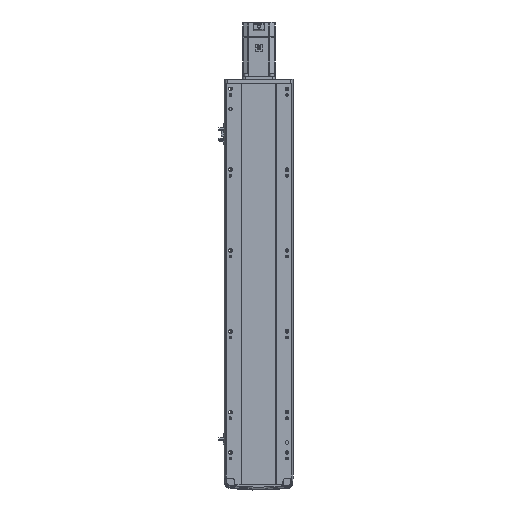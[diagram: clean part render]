
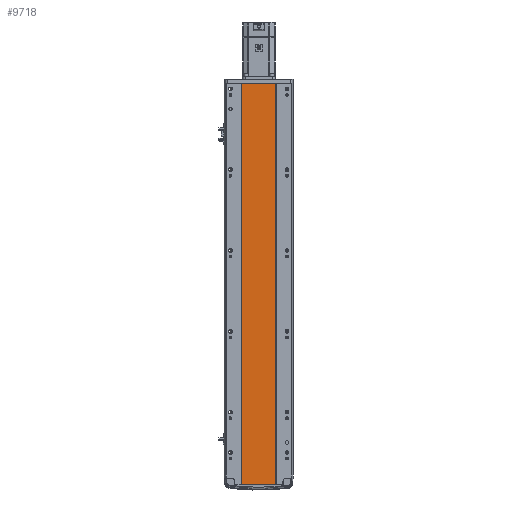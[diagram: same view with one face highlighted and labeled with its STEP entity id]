
A CAD part, front view. The second image highlights one B-rep face of the part: STEP entity #9718.
In plain terms, the highlighted planar face has unit normal (0, -1, 0).
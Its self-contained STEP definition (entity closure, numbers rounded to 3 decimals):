
#73 = ORIENTED_EDGE ( 'NONE', *, *, #48754, .F. ) ;
#151 = ORIENTED_EDGE ( 'NONE', *, *, #42609, .T. ) ;
#198 = CARTESIAN_POINT ( 'NONE',  ( -41.791, 1., 993.5 ) ) ;
#1073 = PLANE ( 'NONE',  #8924 ) ;
#2034 = EDGE_LOOP ( 'NONE', ( #151, #15522, #73, #29655 ) ) ;
#2848 = DIRECTION ( 'NONE',  ( 0., 0., -1. ) ) ;
#5182 = DIRECTION ( 'NONE',  ( -1., 0., 0. ) ) ;
#8365 = EDGE_CURVE ( 'NONE', #47951, #47183, #30552, .T. ) ;
#8924 = AXIS2_PLACEMENT_3D ( 'NONE', #45703, #25269, #5182 ) ;
#9162 = DIRECTION ( 'NONE',  ( 0., 0., -1. ) ) ;
#9718 = ADVANCED_FACE ( 'NONE', ( #18840 ), #1073, .F. ) ;
#15284 = CARTESIAN_POINT ( 'NONE',  ( 41.793, 0.998, 993.5 ) ) ;
#15522 = ORIENTED_EDGE ( 'NONE', *, *, #35357, .F. ) ;
#18344 = VECTOR ( 'NONE', #9162, 1000. ) ;
#18840 = FACE_OUTER_BOUND ( 'NONE', #2034, .T. ) ;
#19505 = CARTESIAN_POINT ( 'NONE',  ( 41.793, 0.998, 993.5 ) ) ;
#24758 = CARTESIAN_POINT ( 'NONE',  ( 0., 0.999, 993.5 ) ) ;
#25269 = DIRECTION ( 'NONE',  ( 0., 1., 0. ) ) ;
#26267 = CARTESIAN_POINT ( 'NONE',  ( -41.791, 1., 0. ) ) ;
#27110 = VERTEX_POINT ( 'NONE', #27346 ) ;
#27346 = CARTESIAN_POINT ( 'NONE',  ( 41.793, 0.998, 0. ) ) ;
#29655 = ORIENTED_EDGE ( 'NONE', *, *, #8365, .T. ) ;
#30552 = LINE ( 'NONE', #198, #18344 ) ;
#31402 = VECTOR ( 'NONE', #32065, 1000. ) ;
#32065 = DIRECTION ( 'NONE',  ( 1., 0., 0. ) ) ;
#35357 = EDGE_CURVE ( 'NONE', #48255, #27110, #44945, .T. ) ;
#37578 = VECTOR ( 'NONE', #44837, 1000. ) ;
#38437 = LINE ( 'NONE', #44070, #31402 ) ;
#39471 = LINE ( 'NONE', #24758, #37578 ) ;
#42609 = EDGE_CURVE ( 'NONE', #47183, #27110, #38437, .T. ) ;
#44070 = CARTESIAN_POINT ( 'NONE',  ( 0., 0.999, 0. ) ) ;
#44837 = DIRECTION ( 'NONE',  ( 1., 0., 0. ) ) ;
#44945 = LINE ( 'NONE', #19505, #50665 ) ;
#45456 = CARTESIAN_POINT ( 'NONE',  ( -41.791, 1., 993.5 ) ) ;
#45703 = CARTESIAN_POINT ( 'NONE',  ( 0., 0.999, 993.5 ) ) ;
#47183 = VERTEX_POINT ( 'NONE', #26267 ) ;
#47951 = VERTEX_POINT ( 'NONE', #45456 ) ;
#48255 = VERTEX_POINT ( 'NONE', #15284 ) ;
#48754 = EDGE_CURVE ( 'NONE', #47951, #48255, #39471, .T. ) ;
#50665 = VECTOR ( 'NONE', #2848, 1000. ) ;
